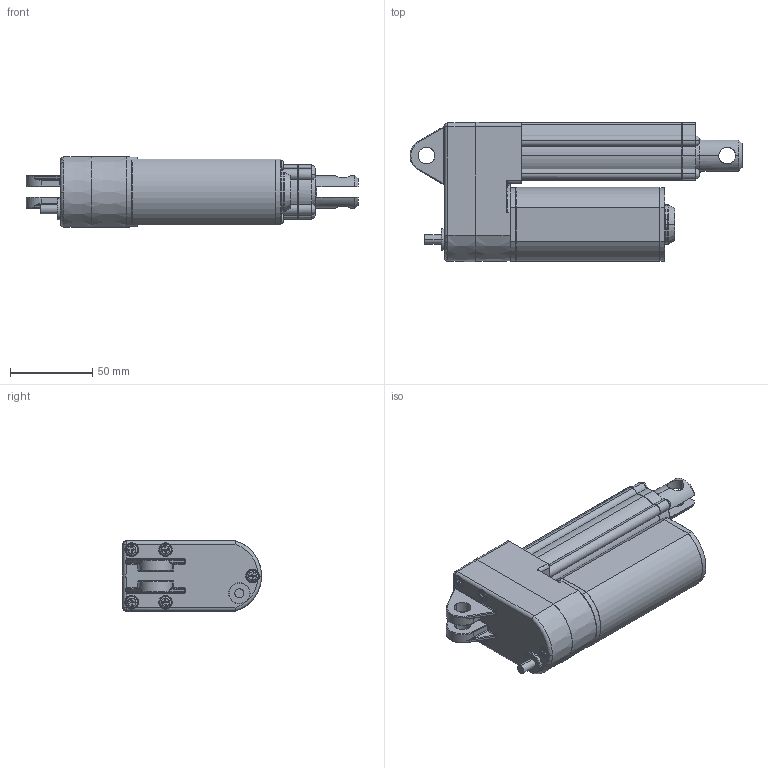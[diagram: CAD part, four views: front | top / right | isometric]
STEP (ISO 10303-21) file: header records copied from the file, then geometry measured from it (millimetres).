
FILE_DESCRIPTION(('STEP AP203'),'1');
FILE_NAME('MLA-J2-a450183a0f041r0411112101230829085026','2025-08-29T08:50:31',('TraceParts'),('TraceParts S.A.'),'Spatial InterOp 3D',' ',' ');
FILE_SCHEMA(('CONFIG_CONTROL_DESIGN'));
Length unit declared in the file: millimetre
Products named in the file (1): 1
Bounding box: 201.99 x 84.62 x 43 mm (x, y, z)
Volume: 400897.6 mm3; surface area: 49677.4 mm2
Topology: 6 solids, 6 shells, 596 faces, 1566 edges, 995 vertices
Faces by surface type: plane 246, cylinder 137, torus 91, bspline 83, cone 37, sphere 2
Entity records: 25298 total; most frequent: CARTESIAN_POINT 11423, ORIENTED_EDGE 3118, DIRECTION 2625, EDGE_CURVE 1559, VERTEX_POINT 995, AXIS2_PLACEMENT_3D 988, LINE 649, VECTOR 649
